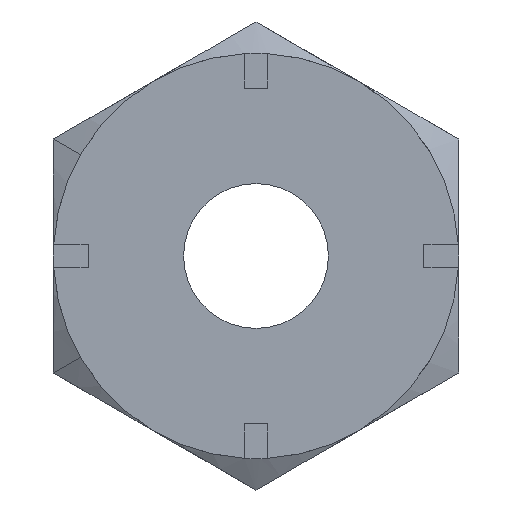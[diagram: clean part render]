
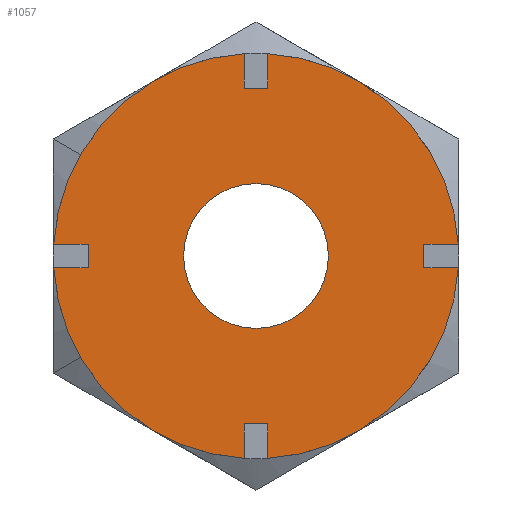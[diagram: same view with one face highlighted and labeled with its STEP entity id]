
A CAD part, left-side view. The second image highlights one B-rep face of the part: STEP entity #1057.
In plain terms, the highlighted planar face has unit normal (-1, 0, 0).
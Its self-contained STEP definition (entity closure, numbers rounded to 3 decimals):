
#130=CARTESIAN_POINT('',(-15.0,0.,2.5));
#131=VERTEX_POINT('',#130);
#140=CARTESIAN_POINT('',(-15.0,2.5,0.0));
#141=VERTEX_POINT('',#140);
#142=CARTESIAN_POINT('',(-15.0,0.0,0.0));
#143=DIRECTION('',(1.0,0.0,0.0));
#144=DIRECTION('',(0.0,1.0,0.0));
#145=AXIS2_PLACEMENT_3D('',#142,#143,#144);
#146=CIRCLE('',#145,2.5);
#147=EDGE_CURVE('',#141,#131,#146,.T.);
#341=CARTESIAN_POINT('',(-15.0,0.,-2.5));
#342=VERTEX_POINT('',#341);
#351=CARTESIAN_POINT('',(-15.0,-2.5,0.));
#352=VERTEX_POINT('',#351);
#353=CARTESIAN_POINT('',(-15.0,0.0,0.0));
#354=DIRECTION('',(1.0,0.0,0.0));
#355=DIRECTION('',(0.0,1.0,0.0));
#356=AXIS2_PLACEMENT_3D('',#353,#354,#355);
#357=CIRCLE('',#356,2.5);
#358=EDGE_CURVE('',#352,#342,#357,.T.);
#392=CARTESIAN_POINT('',(-15.0,0.0,0.0));
#393=DIRECTION('',(1.0,0.0,0.0));
#394=DIRECTION('',(0.0,1.0,0.0));
#395=AXIS2_PLACEMENT_3D('',#392,#393,#394);
#396=CIRCLE('',#395,2.5);
#397=EDGE_CURVE('',#342,#141,#396,.T.);
#407=CARTESIAN_POINT('',(-15.0,6.989,0.4));
#408=VERTEX_POINT('',#407);
#423=CARTESIAN_POINT('',(-15.0,5.8,0.4));
#424=VERTEX_POINT('',#423);
#431=CARTESIAN_POINT('',(-15.0,6.989,0.4));
#432=DIRECTION('',(0.0,-1.0,0.0));
#433=VECTOR('',#432,1.189);
#434=LINE('',#431,#433);
#435=EDGE_CURVE('',#408,#424,#434,.T.);
#445=CARTESIAN_POINT('',(-15.0,6.989,-0.4));
#446=VERTEX_POINT('',#445);
#455=CARTESIAN_POINT('',(-15.0,5.8,-0.4));
#456=VERTEX_POINT('',#455);
#457=CARTESIAN_POINT('',(-15.0,5.8,-0.4));
#458=DIRECTION('',(0.0,1.0,0.0));
#459=VECTOR('',#458,1.189);
#460=LINE('',#457,#459);
#461=EDGE_CURVE('',#456,#446,#460,.T.);
#492=CARTESIAN_POINT('',(-15.0,5.8,0.4));
#493=DIRECTION('',(0.0,0.0,-1.0));
#494=VECTOR('',#493,0.8);
#495=LINE('',#492,#494);
#496=EDGE_CURVE('',#424,#456,#495,.T.);
#528=CARTESIAN_POINT('',(-15.0,-0.4,6.989));
#529=VERTEX_POINT('',#528);
#544=CARTESIAN_POINT('',(-15.0,-0.4,5.8));
#545=VERTEX_POINT('',#544);
#552=CARTESIAN_POINT('',(-15.0,-0.4,6.989));
#553=DIRECTION('',(0.0,0.0,-1.0));
#554=VECTOR('',#553,1.189);
#555=LINE('',#552,#554);
#556=EDGE_CURVE('',#529,#545,#555,.T.);
#566=CARTESIAN_POINT('',(-15.0,0.4,6.989));
#567=VERTEX_POINT('',#566);
#576=CARTESIAN_POINT('',(-15.0,0.4,5.8));
#577=VERTEX_POINT('',#576);
#578=CARTESIAN_POINT('',(-15.0,0.4,5.8));
#579=DIRECTION('',(0.0,0.0,1.0));
#580=VECTOR('',#579,1.189);
#581=LINE('',#578,#580);
#582=EDGE_CURVE('',#577,#567,#581,.T.);
#613=CARTESIAN_POINT('',(-15.0,-0.4,5.8));
#614=DIRECTION('',(0.0,1.0,0.0));
#615=VECTOR('',#614,0.8);
#616=LINE('',#613,#615);
#617=EDGE_CURVE('',#545,#577,#616,.T.);
#648=CARTESIAN_POINT('',(-15.0,-6.989,-0.4));
#649=VERTEX_POINT('',#648);
#664=CARTESIAN_POINT('',(-15.0,-5.8,-0.4));
#665=VERTEX_POINT('',#664);
#672=CARTESIAN_POINT('',(-15.0,-6.989,-0.4));
#673=DIRECTION('',(0.0,1.0,0.0));
#674=VECTOR('',#673,1.189);
#675=LINE('',#672,#674);
#676=EDGE_CURVE('',#649,#665,#675,.T.);
#686=CARTESIAN_POINT('',(-15.0,-6.989,0.4));
#687=VERTEX_POINT('',#686);
#696=CARTESIAN_POINT('',(-15.0,-5.8,0.4));
#697=VERTEX_POINT('',#696);
#698=CARTESIAN_POINT('',(-15.0,-5.8,0.4));
#699=DIRECTION('',(0.0,-1.0,0.0));
#700=VECTOR('',#699,1.189);
#701=LINE('',#698,#700);
#702=EDGE_CURVE('',#697,#687,#701,.T.);
#733=CARTESIAN_POINT('',(-15.0,-5.8,-0.4));
#734=DIRECTION('',(0.0,0.0,1.0));
#735=VECTOR('',#734,0.8);
#736=LINE('',#733,#735);
#737=EDGE_CURVE('',#665,#697,#736,.T.);
#777=CARTESIAN_POINT('',(-15.0,0.4,-6.989));
#778=VERTEX_POINT('',#777);
#793=CARTESIAN_POINT('',(-15.0,0.4,-5.8));
#794=VERTEX_POINT('',#793);
#801=CARTESIAN_POINT('',(-15.0,0.4,-6.989));
#802=DIRECTION('',(0.0,0.0,1.0));
#803=VECTOR('',#802,1.189);
#804=LINE('',#801,#803);
#805=EDGE_CURVE('',#778,#794,#804,.T.);
#815=CARTESIAN_POINT('',(-15.0,-0.4,-6.989));
#816=VERTEX_POINT('',#815);
#825=CARTESIAN_POINT('',(-15.0,-0.4,-5.8));
#826=VERTEX_POINT('',#825);
#827=CARTESIAN_POINT('',(-15.0,-0.4,-5.8));
#828=DIRECTION('',(0.0,0.0,-1.0));
#829=VECTOR('',#828,1.189);
#830=LINE('',#827,#829);
#831=EDGE_CURVE('',#826,#816,#830,.T.);
#862=CARTESIAN_POINT('',(-15.0,0.4,-5.8));
#863=DIRECTION('',(0.0,-1.0,0.0));
#864=VECTOR('',#863,0.8);
#865=LINE('',#862,#864);
#866=EDGE_CURVE('',#794,#826,#865,.T.);
#896=CARTESIAN_POINT('',(-15.0,0.0,0.0));
#897=DIRECTION('',(1.0,0.0,0.0));
#898=DIRECTION('',(0.0,1.0,0.0));
#899=AXIS2_PLACEMENT_3D('',#896,#897,#898);
#900=CIRCLE('',#899,7.);
#901=EDGE_CURVE('',#649,#816,#900,.T.);
#929=CARTESIAN_POINT('',(-15.0,0.0,0.0));
#930=DIRECTION('',(1.0,0.0,0.0));
#931=DIRECTION('',(0.0,1.0,0.0));
#932=AXIS2_PLACEMENT_3D('',#929,#930,#931);
#933=CIRCLE('',#932,7.);
#934=EDGE_CURVE('',#529,#687,#933,.T.);
#978=CARTESIAN_POINT('',(-15.0,0.0,0.0));
#979=DIRECTION('',(1.0,0.0,0.0));
#980=DIRECTION('',(0.0,1.0,0.0));
#981=AXIS2_PLACEMENT_3D('',#978,#979,#980);
#982=CIRCLE('',#981,7.);
#983=EDGE_CURVE('',#778,#446,#982,.T.);
#994=CARTESIAN_POINT('',(-15.0,0.0,0.0));
#995=DIRECTION('',(1.0,0.0,0.0));
#996=DIRECTION('',(0.0,1.0,0.0));
#997=AXIS2_PLACEMENT_3D('',#994,#995,#996);
#998=CIRCLE('',#997,7.);
#999=EDGE_CURVE('',#408,#567,#998,.T.);
#1022=CARTESIAN_POINT('',(-15.0,-7.687,-7.687));
#1023=DIRECTION('',(-1.0,0.0,0.0));
#1024=DIRECTION('',(0.0,0.0,1.0));
#1025=AXIS2_PLACEMENT_3D('',#1022,#1023,#1024);
#1026=PLANE('',#1025);
#1027=ORIENTED_EDGE('',*,*,#435,.T.);
#1028=ORIENTED_EDGE('',*,*,#496,.T.);
#1029=ORIENTED_EDGE('',*,*,#461,.T.);
#1030=ORIENTED_EDGE('',*,*,#983,.F.);
#1031=ORIENTED_EDGE('',*,*,#805,.T.);
#1032=ORIENTED_EDGE('',*,*,#866,.T.);
#1033=ORIENTED_EDGE('',*,*,#831,.T.);
#1034=ORIENTED_EDGE('',*,*,#901,.F.);
#1035=ORIENTED_EDGE('',*,*,#676,.T.);
#1036=ORIENTED_EDGE('',*,*,#737,.T.);
#1037=ORIENTED_EDGE('',*,*,#702,.T.);
#1038=ORIENTED_EDGE('',*,*,#934,.F.);
#1039=ORIENTED_EDGE('',*,*,#556,.T.);
#1040=ORIENTED_EDGE('',*,*,#617,.T.);
#1041=ORIENTED_EDGE('',*,*,#582,.T.);
#1042=ORIENTED_EDGE('',*,*,#999,.F.);
#1043=EDGE_LOOP('',(#1027,#1028,#1029,#1030,#1031,#1032,#1033,#1034,#1035,#1036,#1037,#1038,#1039,#1040,#1041,#1042));
#1044=FACE_OUTER_BOUND('',#1043,.T.);
#1045=ORIENTED_EDGE('',*,*,#147,.T.);
#1046=CARTESIAN_POINT('',(-15.0,0.0,0.0));
#1047=DIRECTION('',(1.0,0.0,0.0));
#1048=DIRECTION('',(0.0,1.0,0.0));
#1049=AXIS2_PLACEMENT_3D('',#1046,#1047,#1048);
#1050=CIRCLE('',#1049,2.5);
#1051=EDGE_CURVE('',#131,#352,#1050,.T.);
#1052=ORIENTED_EDGE('',*,*,#1051,.T.);
#1053=ORIENTED_EDGE('',*,*,#358,.T.);
#1054=ORIENTED_EDGE('',*,*,#397,.T.);
#1055=EDGE_LOOP('',(#1045,#1052,#1053,#1054));
#1056=FACE_BOUND('',#1055,.T.);
#1057=ADVANCED_FACE('',(#1044,#1056),#1026,.T.);
